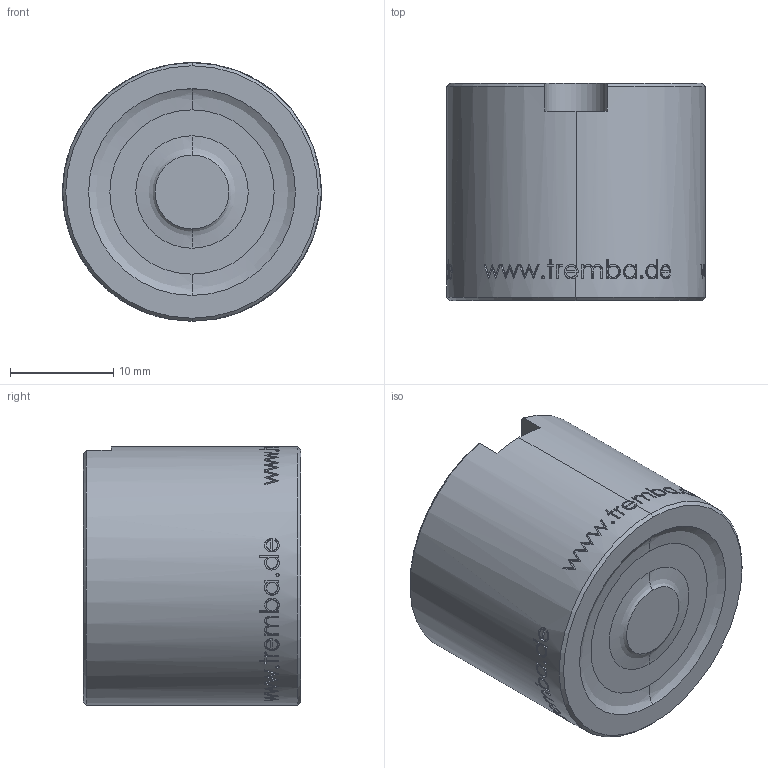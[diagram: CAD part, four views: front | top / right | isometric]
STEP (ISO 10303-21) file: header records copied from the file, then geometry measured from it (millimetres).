
FILE_DESCRIPTION (( 'STEP AP203' ), '1' );
FILE_NAME ('GTO-25-0.5000 - step - V01 - DSC.STEP', '2014-07-01T12:36:55', ( '' ), ( '' ), 'SwSTEP 2.0', 'SolidWorks 2012', '' );
FILE_SCHEMA (( 'CONFIG_CONTROL_DESIGN' ));
Products named in the file (1): GTO-25-0.5000 - step - V01 - DSC
Bounding box: 25 x 21 x 25 mm (x, y, z)
Volume: 9989.3 mm3; surface area: 2815.1 mm2
Topology: 1 solids, 1 shells, 562 faces, 1504 edges, 997 vertices
Faces by surface type: bspline 289, plane 194, cylinder 67, cone 12
Entity records: 37770 total; most frequent: CARTESIAN_POINT 26144, ORIENTED_EDGE 3000, EDGE_CURVE 1500, DIRECTION 1363, VERTEX_POINT 997, B_SPLINE_CURVE_WITH_KNOTS 947, EDGE_LOOP 619, FACE_OUTER_BOUND 562
